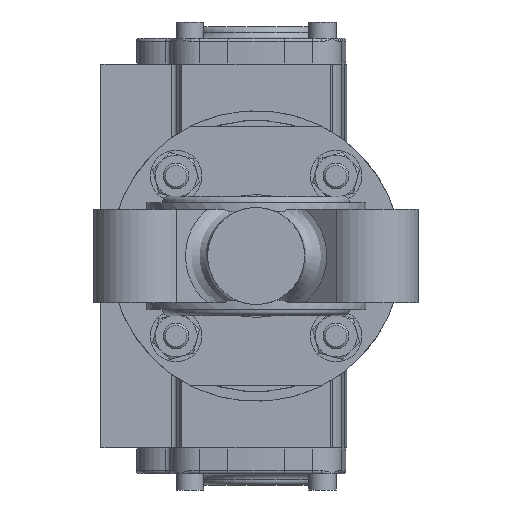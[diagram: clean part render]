
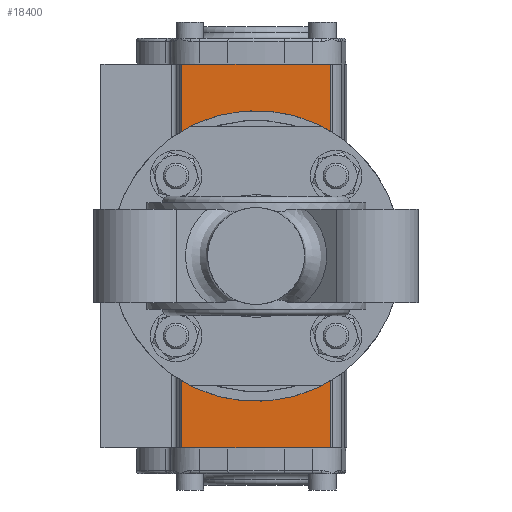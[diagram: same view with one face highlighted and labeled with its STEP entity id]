
A CAD part, front view. The second image highlights one B-rep face of the part: STEP entity #18400.
In plain terms, the highlighted planar face has unit normal (0, -1, 0).
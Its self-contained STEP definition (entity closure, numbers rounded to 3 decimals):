
#35 = CIRCLE ( 'NONE', #467, 2.5 ) ;
#174 = VERTEX_POINT ( 'NONE', #4560 ) ;
#467 = AXIS2_PLACEMENT_3D ( 'NONE', #3349, #24290, #5758 ) ;
#773 = CARTESIAN_POINT ( 'NONE',  ( -17.678, -34., 17.678 ) ) ;
#790 = DIRECTION ( 'NONE',  ( 0., -1., 0. ) ) ;
#1216 = CARTESIAN_POINT ( 'NONE',  ( 17.678, -34., -15.178 ) ) ;
#1238 = AXIS2_PLACEMENT_3D ( 'NONE', #17667, #18054, #5232 ) ;
#1483 = ORIENTED_EDGE ( 'NONE', *, *, #24199, .F. ) ;
#1500 = CARTESIAN_POINT ( 'NONE',  ( 0., -34., 15. ) ) ;
#1797 = EDGE_CURVE ( 'NONE', #19420, #7586, #26261, .T. ) ;
#2010 = AXIS2_PLACEMENT_3D ( 'NONE', #773, #4706, #4567 ) ;
#2024 = VERTEX_POINT ( 'NONE', #19985 ) ;
#2190 = AXIS2_PLACEMENT_3D ( 'NONE', #9937, #13574, #5725 ) ;
#2556 = CARTESIAN_POINT ( 'NONE',  ( 59.4, -34., 23. ) ) ;
#2878 = ORIENTED_EDGE ( 'NONE', *, *, #1797, .F. ) ;
#2948 = VECTOR ( 'NONE', #6569, 1000. ) ;
#3349 = CARTESIAN_POINT ( 'NONE',  ( -17.678, -34., 17.678 ) ) ;
#4143 = ORIENTED_EDGE ( 'NONE', *, *, #15151, .F. ) ;
#4167 = EDGE_LOOP ( 'NONE', ( #13968, #4143 ) ) ;
#4339 = EDGE_LOOP ( 'NONE', ( #16343, #15361 ) ) ;
#4549 = CARTESIAN_POINT ( 'NONE',  ( 0., -34., 0. ) ) ;
#4560 = CARTESIAN_POINT ( 'NONE',  ( -17.678, -34., -15.178 ) ) ;
#4567 = DIRECTION ( 'NONE',  ( 0., 0., -1. ) ) ;
#4706 = DIRECTION ( 'NONE',  ( 0., -1., 0. ) ) ;
#4985 = CARTESIAN_POINT ( 'NONE',  ( -17.678, -34., 15.178 ) ) ;
#5232 = DIRECTION ( 'NONE',  ( 0., 0., -1. ) ) ;
#5500 = VERTEX_POINT ( 'NONE', #19185 ) ;
#5551 = VECTOR ( 'NONE', #19181, 1000. ) ;
#5706 = EDGE_CURVE ( 'NONE', #6866, #25105, #13652, .T. ) ;
#5725 = DIRECTION ( 'NONE',  ( 0., 0., -1. ) ) ;
#5758 = DIRECTION ( 'NONE',  ( 0., 0., -1. ) ) ;
#5899 = FACE_BOUND ( 'NONE', #4339, .T. ) ;
#5951 = AXIS2_PLACEMENT_3D ( 'NONE', #12243, #8457, #20616 ) ;
#6531 = CARTESIAN_POINT ( 'NONE',  ( 0., -34., 0. ) ) ;
#6569 = DIRECTION ( 'NONE',  ( 0., 0., -1. ) ) ;
#6587 = AXIS2_PLACEMENT_3D ( 'NONE', #15771, #18072, #9445 ) ;
#6694 = CARTESIAN_POINT ( 'NONE',  ( 17.678, -34., -17.678 ) ) ;
#6866 = VERTEX_POINT ( 'NONE', #4985 ) ;
#7106 = EDGE_CURVE ( 'NONE', #26096, #16760, #13252, .T. ) ;
#7400 = VERTEX_POINT ( 'NONE', #11944 ) ;
#7486 = CIRCLE ( 'NONE', #19591, 15. ) ;
#7526 = FACE_OUTER_BOUND ( 'NONE', #8639, .T. ) ;
#7586 = VERTEX_POINT ( 'NONE', #17473 ) ;
#7635 = ORIENTED_EDGE ( 'NONE', *, *, #7984, .F. ) ;
#7667 = VERTEX_POINT ( 'NONE', #1500 ) ;
#7896 = CIRCLE ( 'NONE', #15266, 2.5 ) ;
#7924 = FACE_BOUND ( 'NONE', #4167, .T. ) ;
#7984 = EDGE_CURVE ( 'NONE', #20957, #8730, #17630, .T. ) ;
#8210 = EDGE_CURVE ( 'NONE', #8730, #20957, #7896, .T. ) ;
#8457 = DIRECTION ( 'NONE',  ( 0., -1., 0. ) ) ;
#8512 = ORIENTED_EDGE ( 'NONE', *, *, #23841, .T. ) ;
#8530 = EDGE_CURVE ( 'NONE', #7667, #26367, #7486, .T. ) ;
#8632 = CARTESIAN_POINT ( 'NONE',  ( 59.4, -34., -23. ) ) ;
#8639 = EDGE_LOOP ( 'NONE', ( #10249, #15600, #2878, #8512 ) ) ;
#8730 = VERTEX_POINT ( 'NONE', #25881 ) ;
#8909 = DIRECTION ( 'NONE',  ( 0., 0., -1. ) ) ;
#9445 = DIRECTION ( 'NONE',  ( 0., 0., 1. ) ) ;
#9464 = VECTOR ( 'NONE', #16122, 1000. ) ;
#9846 = FACE_BOUND ( 'NONE', #14850, .T. ) ;
#9937 = CARTESIAN_POINT ( 'NONE',  ( -17.678, -34., -17.678 ) ) ;
#10109 = CARTESIAN_POINT ( 'NONE',  ( 0., -34., -15. ) ) ;
#10249 = ORIENTED_EDGE ( 'NONE', *, *, #21695, .T. ) ;
#10513 = LINE ( 'NONE', #18736, #2948 ) ;
#10937 = LINE ( 'NONE', #8632, #26401 ) ;
#11043 = DIRECTION ( 'NONE',  ( 0., -1., 0. ) ) ;
#11204 = CIRCLE ( 'NONE', #1238, 2.5 ) ;
#11683 = CIRCLE ( 'NONE', #2190, 2.5 ) ;
#11784 = CIRCLE ( 'NONE', #20416, 15. ) ;
#11936 = CARTESIAN_POINT ( 'NONE',  ( 59.4, -34., 23. ) ) ;
#11944 = CARTESIAN_POINT ( 'NONE',  ( -59.4, -34., -23. ) ) ;
#12164 = AXIS2_PLACEMENT_3D ( 'NONE', #17281, #790, #8909 ) ;
#12243 = CARTESIAN_POINT ( 'NONE',  ( 17.678, -34., 17.678 ) ) ;
#13194 = DIRECTION ( 'NONE',  ( 0., 0., -1. ) ) ;
#13252 = CIRCLE ( 'NONE', #14972, 2.5 ) ;
#13339 = DIRECTION ( 'NONE',  ( 0., 0., 1. ) ) ;
#13491 = CARTESIAN_POINT ( 'NONE',  ( 59.4, -34., 23. ) ) ;
#13574 = DIRECTION ( 'NONE',  ( 0., -1., 0. ) ) ;
#13652 = CIRCLE ( 'NONE', #2010, 2.5 ) ;
#13968 = ORIENTED_EDGE ( 'NONE', *, *, #5706, .F. ) ;
#14850 = EDGE_LOOP ( 'NONE', ( #21542, #1483 ) ) ;
#14936 = DIRECTION ( 'NONE',  ( 0., -1., 0. ) ) ;
#14972 = AXIS2_PLACEMENT_3D ( 'NONE', #6694, #14936, #13194 ) ;
#15020 = CARTESIAN_POINT ( 'NONE',  ( 17.678, -34., -20.178 ) ) ;
#15151 = EDGE_CURVE ( 'NONE', #25105, #6866, #35, .T. ) ;
#15185 = ORIENTED_EDGE ( 'NONE', *, *, #16173, .F. ) ;
#15266 = AXIS2_PLACEMENT_3D ( 'NONE', #26131, #21693, #19669 ) ;
#15270 = LINE ( 'NONE', #13491, #5551 ) ;
#15361 = ORIENTED_EDGE ( 'NONE', *, *, #18892, .F. ) ;
#15600 = ORIENTED_EDGE ( 'NONE', *, *, #17050, .F. ) ;
#15771 = CARTESIAN_POINT ( 'NONE',  ( 59.4, -34., 23. ) ) ;
#15924 = EDGE_LOOP ( 'NONE', ( #7635, #22961 ) ) ;
#16122 = DIRECTION ( 'NONE',  ( 0., 0., -1. ) ) ;
#16173 = EDGE_CURVE ( 'NONE', #174, #2024, #11683, .T. ) ;
#16343 = ORIENTED_EDGE ( 'NONE', *, *, #8530, .F. ) ;
#16760 = VERTEX_POINT ( 'NONE', #1216 ) ;
#16815 = EDGE_LOOP ( 'NONE', ( #21474, #15185 ) ) ;
#16926 = EDGE_CURVE ( 'NONE', #2024, #174, #21671, .T. ) ;
#17050 = EDGE_CURVE ( 'NONE', #7586, #7400, #10937, .T. ) ;
#17070 = DIRECTION ( 'NONE',  ( 0., -1., 0. ) ) ;
#17281 = CARTESIAN_POINT ( 'NONE',  ( -17.678, -34., -17.678 ) ) ;
#17473 = CARTESIAN_POINT ( 'NONE',  ( 59.4, -34., -23. ) ) ;
#17630 = CIRCLE ( 'NONE', #5951, 2.5 ) ;
#17667 = CARTESIAN_POINT ( 'NONE',  ( 17.678, -34., -17.678 ) ) ;
#18054 = DIRECTION ( 'NONE',  ( 0., -1., 0. ) ) ;
#18072 = DIRECTION ( 'NONE',  ( 0., 1., 0. ) ) ;
#18400 = ADVANCED_FACE ( 'NONE', ( #9846, #26038, #7924, #23905, #5899, #7526 ), #20352, .F. ) ;
#18736 = CARTESIAN_POINT ( 'NONE',  ( -59.4, -34., 23. ) ) ;
#18892 = EDGE_CURVE ( 'NONE', #26367, #7667, #11784, .T. ) ;
#19181 = DIRECTION ( 'NONE',  ( -1., 0., 0. ) ) ;
#19185 = CARTESIAN_POINT ( 'NONE',  ( -59.4, -34., 23. ) ) ;
#19420 = VERTEX_POINT ( 'NONE', #2556 ) ;
#19591 = AXIS2_PLACEMENT_3D ( 'NONE', #4549, #11043, #13339 ) ;
#19669 = DIRECTION ( 'NONE',  ( 0., 0., -1. ) ) ;
#19985 = CARTESIAN_POINT ( 'NONE',  ( -17.678, -34., -20.178 ) ) ;
#20352 = PLANE ( 'NONE',  #6587 ) ;
#20416 = AXIS2_PLACEMENT_3D ( 'NONE', #6531, #17070, #23582 ) ;
#20616 = DIRECTION ( 'NONE',  ( 0., 0., -1. ) ) ;
#20925 = CARTESIAN_POINT ( 'NONE',  ( -17.678, -34., 20.178 ) ) ;
#20957 = VERTEX_POINT ( 'NONE', #23728 ) ;
#21474 = ORIENTED_EDGE ( 'NONE', *, *, #16926, .F. ) ;
#21542 = ORIENTED_EDGE ( 'NONE', *, *, #7106, .F. ) ;
#21671 = CIRCLE ( 'NONE', #12164, 2.5 ) ;
#21693 = DIRECTION ( 'NONE',  ( 0., -1., 0. ) ) ;
#21695 = EDGE_CURVE ( 'NONE', #5500, #7400, #10513, .T. ) ;
#22961 = ORIENTED_EDGE ( 'NONE', *, *, #8210, .F. ) ;
#23582 = DIRECTION ( 'NONE',  ( 0., 0., 1. ) ) ;
#23728 = CARTESIAN_POINT ( 'NONE',  ( 17.678, -34., 15.178 ) ) ;
#23841 = EDGE_CURVE ( 'NONE', #19420, #5500, #15270, .T. ) ;
#23905 = FACE_BOUND ( 'NONE', #15924, .T. ) ;
#24199 = EDGE_CURVE ( 'NONE', #16760, #26096, #11204, .T. ) ;
#24290 = DIRECTION ( 'NONE',  ( 0., -1., 0. ) ) ;
#24992 = DIRECTION ( 'NONE',  ( -1., 0., 0. ) ) ;
#25105 = VERTEX_POINT ( 'NONE', #20925 ) ;
#25881 = CARTESIAN_POINT ( 'NONE',  ( 17.678, -34., 20.178 ) ) ;
#26038 = FACE_BOUND ( 'NONE', #16815, .T. ) ;
#26096 = VERTEX_POINT ( 'NONE', #15020 ) ;
#26131 = CARTESIAN_POINT ( 'NONE',  ( 17.678, -34., 17.678 ) ) ;
#26261 = LINE ( 'NONE', #11936, #9464 ) ;
#26367 = VERTEX_POINT ( 'NONE', #10109 ) ;
#26401 = VECTOR ( 'NONE', #24992, 1000. ) ;
